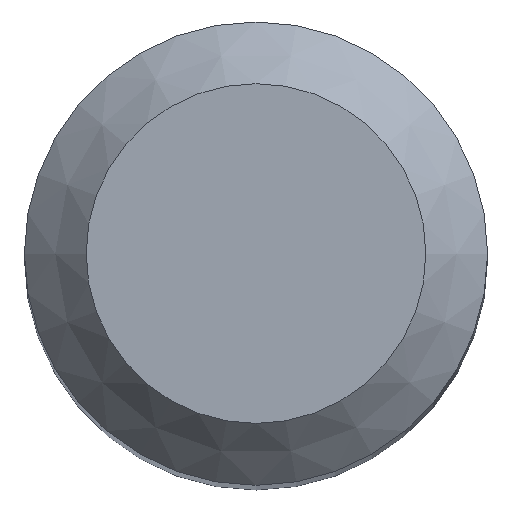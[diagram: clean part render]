
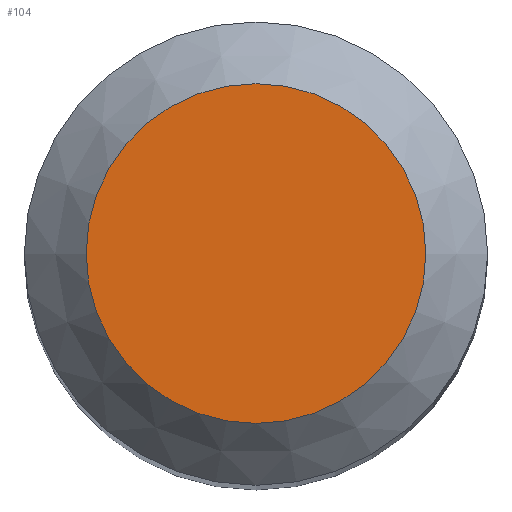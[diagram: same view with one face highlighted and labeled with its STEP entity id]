
A CAD part, top view. The second image highlights one B-rep face of the part: STEP entity #104.
In plain terms, the highlighted planar face has unit normal (0, 0, 1).
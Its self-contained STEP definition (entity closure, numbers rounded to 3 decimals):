
#88=CARTESIAN_POINT('',(2.2,0.0,80.0));
#89=DIRECTION('',(0.0,0.0,1.0));
#90=DIRECTION('',(1.0,0.0,0.0));
#91=AXIS2_PLACEMENT_3D('',#88,#89,#90);
#92=PLANE('',#91);
#93=CARTESIAN_POINT('',(-2.2,0.0,80.0));
#94=VERTEX_POINT('',#93);
#95=CARTESIAN_POINT('',(0.0,0.0,80.0));
#96=DIRECTION('',(0.0,0.0,-1.0));
#97=DIRECTION('',(-1.0,0.0,0.0));
#98=AXIS2_PLACEMENT_3D('',#95,#96,#97);
#99=CIRCLE('',#98,2.2);
#100=EDGE_CURVE('',#94,#94,#99,.T.);
#101=ORIENTED_EDGE('',*,*,#100,.F.);
#102=EDGE_LOOP('',(#101));
#103=FACE_OUTER_BOUND('',#102,.T.);
#104=ADVANCED_FACE('',(#103),#92,.T.);
